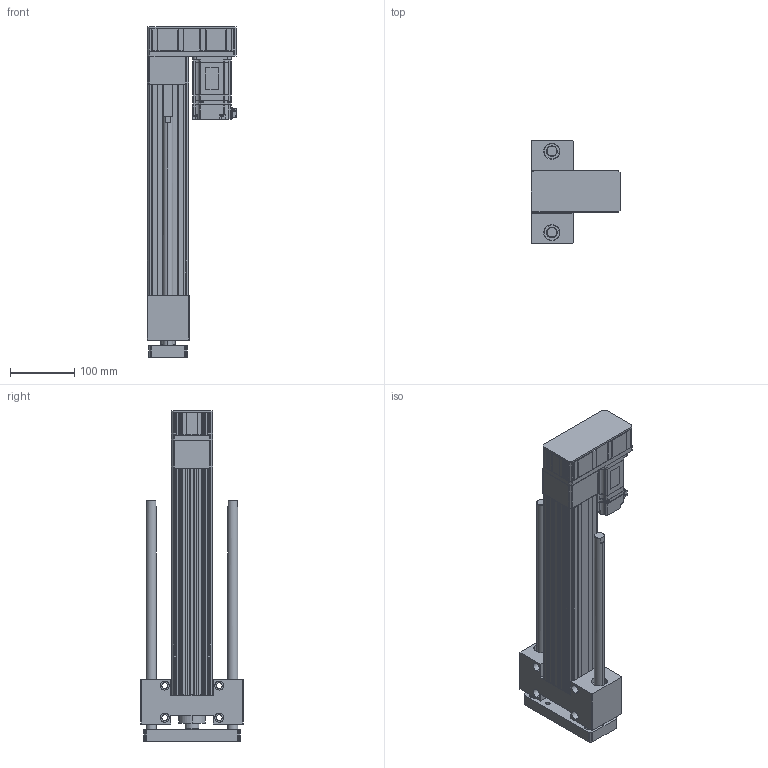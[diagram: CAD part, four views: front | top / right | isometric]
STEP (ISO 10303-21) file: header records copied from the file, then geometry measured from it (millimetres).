
FILE_DESCRIPTION (( 'STEP AP203' ), '1' );
FILE_NAME ('ANS065R-HP250-05(10)(20)-W40.STEP', '2019-03-01T09:42:01', ( 'user' ), ( '' ), 'SwSTEP 2.0', 'SolidWorks 2013', '' );
FILE_SCHEMA (( 'CONFIG_CONTROL_DESIGN' ));
Length unit declared in the file: millimetre
Products named in the file (4): ANS065R HP250 VER2; ANS065 ROD ST250 H; sgmjv_04a_a21; ANS065R-HP250-05(10)(20)-W40
Assembly tree (3 placements, depth 2):
  ANS065R-HP250-05(10)(20)-W40
    ANS065R HP250 VER2
    ANS065 ROD ST250 H
    sgmjv_04a_a21
Bounding box: 140.3 x 160 x 516 mm (x, y, z)
Volume: 2199618.3 mm3; surface area: 498942.3 mm2
Topology: 3 solids, 7 shells, 1457 faces, 3867 edges, 2498 vertices
Faces by surface type: plane 895, cylinder 452, cone 110
Entity records: 45317 total; most frequent: CARTESIAN_POINT 8114, ORIENTED_EDGE 7694, DIRECTION 7647, EDGE_CURVE 3847, LINE 2785, VECTOR 2785, VERTEX_POINT 2498, AXIS2_PLACEMENT_3D 2431
